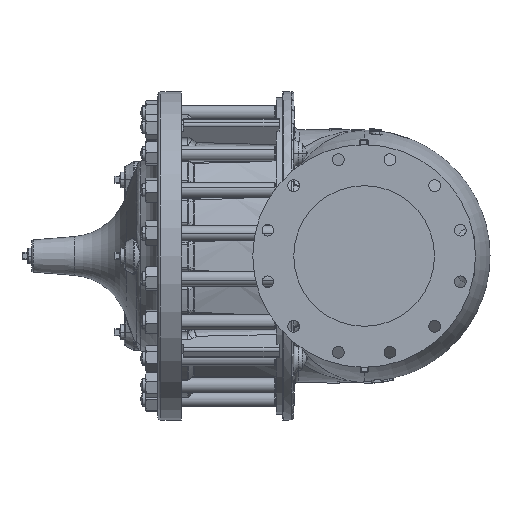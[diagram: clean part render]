
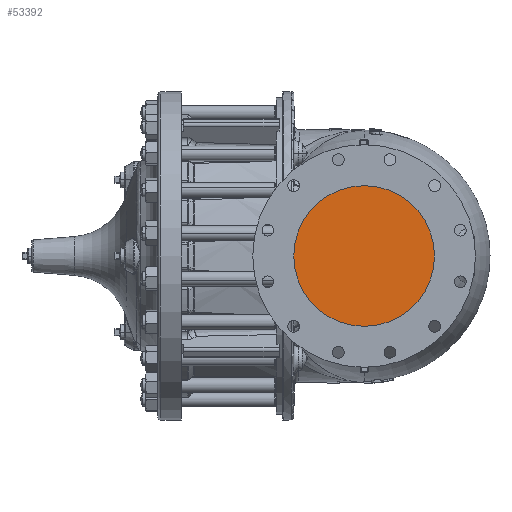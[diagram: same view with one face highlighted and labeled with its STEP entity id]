
A CAD part, left-side view. The second image highlights one B-rep face of the part: STEP entity #53392.
In plain terms, the highlighted planar face has unit normal (-1, 0, 0).
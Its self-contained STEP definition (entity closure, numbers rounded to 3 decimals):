
#10566 = EDGE_CURVE ( 'NONE', #42200, #19116, #33212, .T. ) ;
#19116 = VERTEX_POINT ( 'NONE', #32413 ) ;
#23462 = DIRECTION ( 'NONE',  ( 1., 0., 0. ) ) ;
#24853 = AXIS2_PLACEMENT_3D ( 'NONE', #45636, #23462, #31068 ) ;
#26102 = CARTESIAN_POINT ( 'NONE',  ( -14.5, 0., 0. ) ) ;
#31068 = DIRECTION ( 'NONE',  ( 0., 0., -1. ) ) ;
#32271 = CARTESIAN_POINT ( 'NONE',  ( -14.5, 0., 0. ) ) ;
#32413 = CARTESIAN_POINT ( 'NONE',  ( -14.5, 0., -6. ) ) ;
#33212 = CIRCLE ( 'NONE', #81240, 6. ) ;
#33491 = ORIENTED_EDGE ( 'NONE', *, *, #10566, .F. ) ;
#38384 = EDGE_LOOP ( 'NONE', ( #33491, #73766 ) ) ;
#41384 = CARTESIAN_POINT ( 'NONE',  ( -14.5, 0., 6. ) ) ;
#42200 = VERTEX_POINT ( 'NONE', #41384 ) ;
#45636 = CARTESIAN_POINT ( 'NONE',  ( -14.5, 0., 0. ) ) ;
#53392 = ADVANCED_FACE ( 'NONE', ( #82226 ), #77539, .T. ) ;
#64042 = EDGE_CURVE ( 'NONE', #19116, #42200, #80162, .T. ) ;
#68998 = DIRECTION ( 'NONE',  ( -1., 0., 0. ) ) ;
#73020 = AXIS2_PLACEMENT_3D ( 'NONE', #32271, #68998, #76893 ) ;
#73766 = ORIENTED_EDGE ( 'NONE', *, *, #64042, .F. ) ;
#76893 = DIRECTION ( 'NONE',  ( 0., 0., -1. ) ) ;
#77539 = PLANE ( 'NONE',  #73020 ) ;
#79569 = DIRECTION ( 'NONE',  ( 1., 0., 0. ) ) ;
#80162 = CIRCLE ( 'NONE', #24853, 6. ) ;
#81240 = AXIS2_PLACEMENT_3D ( 'NONE', #26102, #79569, #92442 ) ;
#82226 = FACE_OUTER_BOUND ( 'NONE', #38384, .T. ) ;
#92442 = DIRECTION ( 'NONE',  ( 0., 0., -1. ) ) ;
